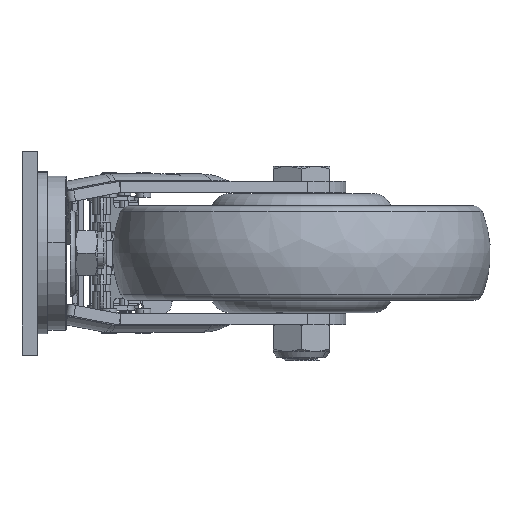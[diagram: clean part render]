
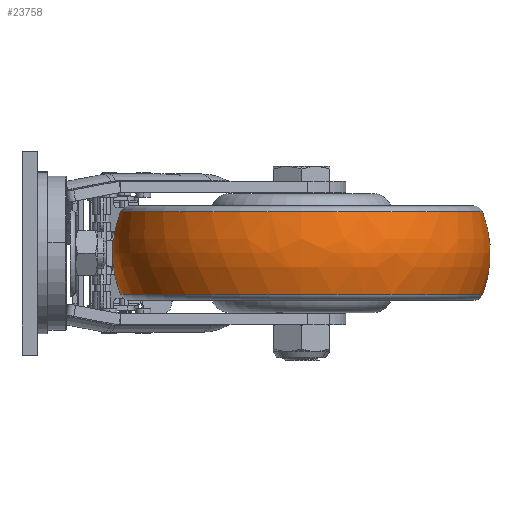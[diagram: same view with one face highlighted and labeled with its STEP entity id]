
A CAD part, left-side view. The second image highlights one B-rep face of the part: STEP entity #23758.
In plain terms, the highlighted free-form (B-spline) face has degree [3, 3] with [7, 4] control points.
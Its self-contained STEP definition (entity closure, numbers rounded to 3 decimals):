
#23194=CARTESIAN_POINT('',(55.,-108.,0.));
#23195=DIRECTION('',(-1.,0.,0.));
#23196=DIRECTION('',(0.,0.932,0.364));
#23197=AXIS2_PLACEMENT_3D('',#23194,#23195,#23196);
#23199=CARTESIAN_POINT('',(55.,-188.,0.));
#23200=DIRECTION('',(1.,0.,0.));
#23201=DIRECTION('',(0.,-0.932,0.364));
#23202=AXIS2_PLACEMENT_3D('',#23199,#23200,#23201);
#23209=CARTESIAN_POINT('',(55.,-148.,21.818));
#23210=DIRECTION('',(0.,0.,1.));
#23211=DIRECTION('',(0.,1.,0.));
#23212=AXIS2_PLACEMENT_3D('',#23209,#23210,#23211);
#23214=CARTESIAN_POINT('',(55.,-148.,-21.818));
#23215=DIRECTION('',(0.,0.,1.));
#23216=DIRECTION('',(0.,1.,0.));
#23217=AXIS2_PLACEMENT_3D('',#23214,#23215,#23216);
#23363=CARTESIAN_POINT('',(55.,-52.108,21.818));
#23365=VERTEX_POINT('',#23363);
#23366=CARTESIAN_POINT('',(55.,-52.108,-21.818));
#23367=VERTEX_POINT('',#23366);
#23395=CARTESIAN_POINT('',(55.,-243.892,21.818));
#23397=VERTEX_POINT('',#23395);
#23398=CARTESIAN_POINT('',(55.,-243.892,-21.818));
#23399=VERTEX_POINT('',#23398);
#23722=CARTESIAN_POINT('',(61.,-52.627,
-22.648));
#23723=CARTESIAN_POINT('',(61.377,-46.644,
-7.941));
#23724=CARTESIAN_POINT('',(61.377,-46.644,
7.941));
#23725=CARTESIAN_POINT('',(61.,-52.627,
22.648));
#23726=CARTESIAN_POINT('',(2.308,-48.934,
-22.648));
#23727=CARTESIAN_POINT('',(-0.997,-42.72,
-7.941));
#23728=CARTESIAN_POINT('',(-0.997,-42.72,
7.941));
#23729=CARTESIAN_POINT('',(2.308,-48.934,
22.648));
#23730=CARTESIAN_POINT('',(-40.561,-89.192,
-22.648));
#23731=CARTESIAN_POINT('',(-46.556,-85.502,
-7.941));
#23732=CARTESIAN_POINT('',(-46.556,-85.502,
7.941));
#23733=CARTESIAN_POINT('',(-40.561,-89.192,
22.648));
#23734=CARTESIAN_POINT('',(-40.561,-148.,-22.648));
#23735=CARTESIAN_POINT('',(-46.556,-148.,-7.941));
#23736=CARTESIAN_POINT('',(-46.556,-148.,7.941));
#23737=CARTESIAN_POINT('',(-40.561,-148.,22.648));
#23738=CARTESIAN_POINT('',(-40.561,-206.808,
-22.648));
#23739=CARTESIAN_POINT('',(-46.556,-210.498,
-7.941));
#23740=CARTESIAN_POINT('',(-46.556,-210.498,
7.941));
#23741=CARTESIAN_POINT('',(-40.561,-206.808,
22.648));
#23742=CARTESIAN_POINT('',(2.308,-247.066,
-22.648));
#23743=CARTESIAN_POINT('',(-0.997,-253.28,
-7.941));
#23744=CARTESIAN_POINT('',(-0.997,-253.28,
7.941));
#23745=CARTESIAN_POINT('',(2.308,-247.066,
22.648));
#23746=CARTESIAN_POINT('',(61.,-243.373,
-22.648));
#23747=CARTESIAN_POINT('',(61.377,-249.356,
-7.941));
#23748=CARTESIAN_POINT('',(61.377,-249.356,
7.941));
#23749=CARTESIAN_POINT('',(61.,-243.373,
22.648));
#23750=(BOUNDED_SURFACE()B_SPLINE_SURFACE(3,3,((#23722,#23723,#23724,#23725),(
#23726,#23727,#23728,#23729),(#23730,#23731,#23732,#23733),(#23734,#23735,
#23736,#23737),(#23738,#23739,#23740,#23741),(#23742,#23743,#23744,#23745),(
#23746,#23747,#23748,#23749)),.UNSPECIFIED.,.F.,.F.,.F.)B_SPLINE_SURFACE_WITH_KNOTS((4,3,4),(4,4),(0.,1.,2.),(0.,1.),.UNSPECIFIED.)GEOMETRIC_REPRESENTATION_ITEM()RATIONAL_B_SPLINE_SURFACE(((1.233,1.172,
1.172,1.233),(0.974,0.926,
0.926,0.974),(0.974,0.926,
0.926,0.974),(1.233,1.172,
1.172,1.233),(0.974,0.926,
0.926,0.974),(0.974,0.926,
0.926,0.974),(1.233,1.172,
1.172,1.233)))REPRESENTATION_ITEM('')SURFACE());
#23751=ORIENTED_EDGE('',*,*,#23705,.F.);
#23752=ORIENTED_EDGE('',*,*,#23644,.T.);
#23753=ORIENTED_EDGE('',*,*,#23709,.T.);
#23755=ORIENTED_EDGE('',*,*,#23754,.F.);
#23756=EDGE_LOOP('',(#23751,#23752,#23753,#23755));
#23757=FACE_OUTER_BOUND('',#23756,.F.);
#23198=CIRCLE('',#23197,60.);
#23203=CIRCLE('',#23202,60.);
#23213=CIRCLE('',#23212,95.892);
#23218=CIRCLE('',#23217,95.892);
#23644=EDGE_CURVE('',#23365,#23397,#23213,.T.);
#23705=EDGE_CURVE('',#23365,#23367,#23198,.T.);
#23709=EDGE_CURVE('',#23397,#23399,#23203,.T.);
#23754=EDGE_CURVE('',#23367,#23399,#23218,.T.);
#23758=ADVANCED_FACE('',(#23757),#23750,.T.);
